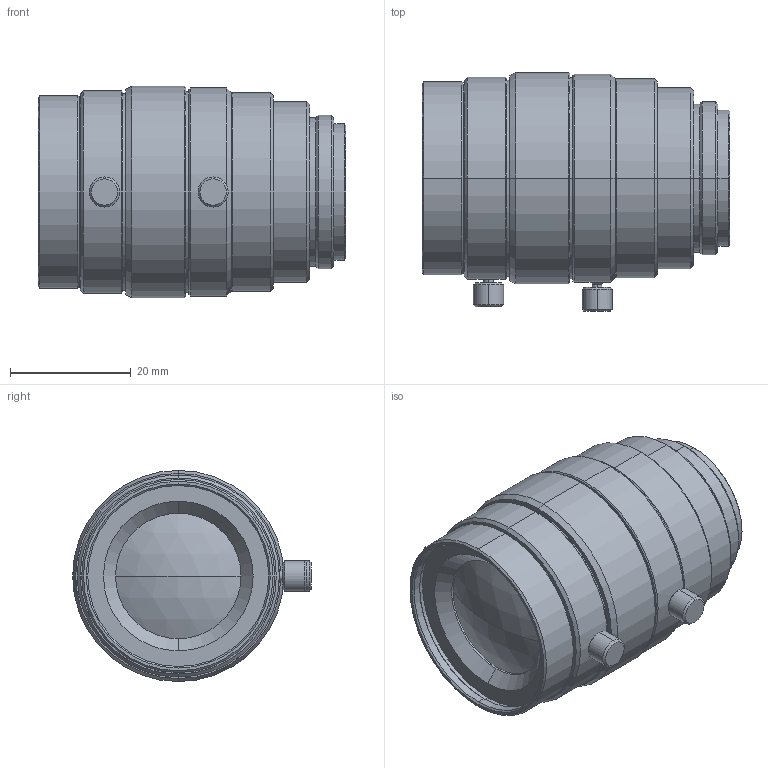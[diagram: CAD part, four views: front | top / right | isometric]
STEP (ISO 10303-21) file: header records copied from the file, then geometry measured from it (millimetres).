
FILE_DESCRIPTION (( 'STEP AP203' ), '1' );
FILE_NAME ('VS-H2520-IRC.STEP', '2022-06-17T06:52:53', ( '' ), ( '' ), 'SwSTEP 2.0', 'SolidWorks 2021', '' );
FILE_SCHEMA (( 'CONFIG_CONTROL_DESIGN' ));
Length unit declared in the file: millimetre
Products named in the file (1): VS-H2520-IRC
Bounding box: 51 x 39.55 x 35 mm (x, y, z)
Volume: 39315.7 mm3; surface area: 7979.8 mm2
Topology: 1 solids, 1 shells, 121 faces, 244 edges, 144 vertices
Faces by surface type: cone 54, cylinder 44, plane 19, sphere 4
Entity records: 3285 total; most frequent: DIRECTION 626, CARTESIAN_POINT 574, ORIENTED_EDGE 488, AXIS2_PLACEMENT_3D 264, EDGE_CURVE 244, VERTEX_POINT 144, CIRCLE 142, EDGE_LOOP 140
